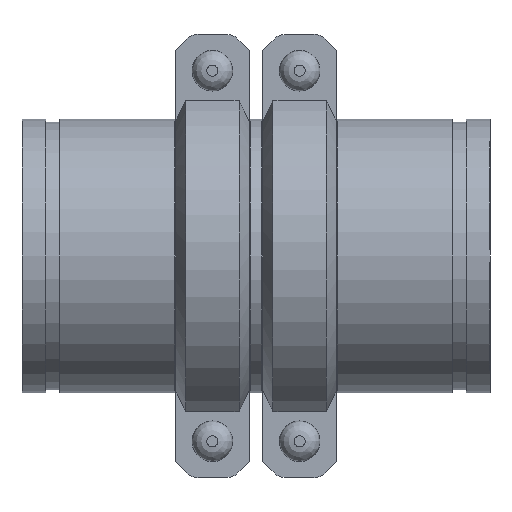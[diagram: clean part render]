
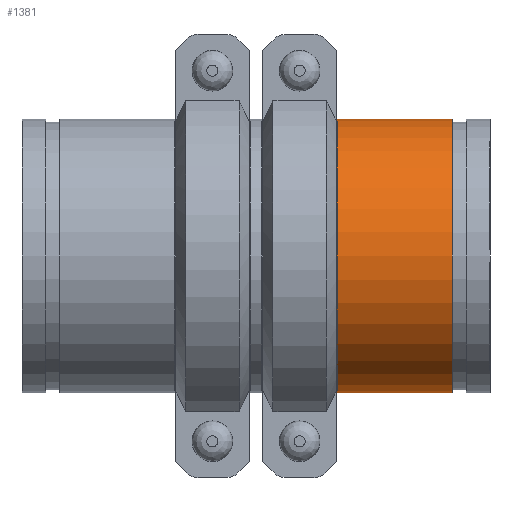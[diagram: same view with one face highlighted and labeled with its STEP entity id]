
A CAD part, front view. The second image highlights one B-rep face of the part: STEP entity #1381.
In plain terms, the highlighted cylindrical face has radius 109.537 mm (diameter 219.075 mm), a full revolution.
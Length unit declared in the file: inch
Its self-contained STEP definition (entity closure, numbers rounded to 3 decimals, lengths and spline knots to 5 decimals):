
#59=LINE('',#2197,#150);
#150=VECTOR('',#1772,4.3125);
#241=CYLINDRICAL_SURFACE('',#1566,4.3125);
#294=FACE_OUTER_BOUND('',#375,.T.);
#375=EDGE_LOOP('',(#908,#909,#910,#911,#912,#913));
#479=CIRCLE('',#1564,4.3125);
#480=CIRCLE('',#1565,4.3125);
#481=CIRCLE('',#1567,4.3125);
#482=CIRCLE('',#1568,4.3125);
#567=VERTEX_POINT('',#2188);
#568=VERTEX_POINT('',#2189);
#569=VERTEX_POINT('',#2193);
#570=VERTEX_POINT('',#2194);
#704=EDGE_CURVE('',#567,#568,#479,.T.);
#705=EDGE_CURVE('',#568,#567,#480,.T.);
#706=EDGE_CURVE('',#569,#570,#481,.T.);
#707=EDGE_CURVE('',#570,#569,#482,.T.);
#708=EDGE_CURVE('',#570,#568,#59,.T.);
#908=ORIENTED_EDGE('',*,*,#706,.F.);
#909=ORIENTED_EDGE('',*,*,#707,.F.);
#910=ORIENTED_EDGE('',*,*,#708,.T.);
#911=ORIENTED_EDGE('',*,*,#705,.T.);
#912=ORIENTED_EDGE('',*,*,#704,.T.);
#913=ORIENTED_EDGE('',*,*,#708,.F.);
#1381=ADVANCED_FACE('',(#294),#241,.T.);
#1564=AXIS2_PLACEMENT_3D('',#2190,#1762,#1763);
#1565=AXIS2_PLACEMENT_3D('',#2191,#1764,#1765);
#1566=AXIS2_PLACEMENT_3D('',#2192,#1766,#1767);
#1567=AXIS2_PLACEMENT_3D('',#2195,#1768,#1769);
#1568=AXIS2_PLACEMENT_3D('',#2196,#1770,#1771);
#1762=DIRECTION('center_axis',(-1.,0.,0.));
#1763=DIRECTION('ref_axis',(0.,0.,1.));
#1764=DIRECTION('center_axis',(-1.,0.,0.));
#1765=DIRECTION('ref_axis',(0.,0.,1.));
#1766=DIRECTION('center_axis',(-1.,0.,0.));
#1767=DIRECTION('ref_axis',(0.,1.,0.));
#1768=DIRECTION('center_axis',(-1.,0.,0.));
#1769=DIRECTION('ref_axis',(0.,0.,1.));
#1770=DIRECTION('center_axis',(-1.,0.,0.));
#1771=DIRECTION('ref_axis',(0.,0.,1.));
#1772=DIRECTION('',(1.,0.,0.));
#2188=CARTESIAN_POINT('',(1.812,4.3125,0.));
#2189=CARTESIAN_POINT('',(1.812,-4.3125,0.));
#2190=CARTESIAN_POINT('Origin',(1.812,0.,0.));
#2191=CARTESIAN_POINT('Origin',(1.812,0.,0.));
#2192=CARTESIAN_POINT('Origin',(0.,0.,
0.));
#2193=CARTESIAN_POINT('',(-1.812,4.3125,0.));
#2194=CARTESIAN_POINT('',(-1.812,-4.3125,0.));
#2195=CARTESIAN_POINT('Origin',(-1.812,0.,0.));
#2196=CARTESIAN_POINT('Origin',(-1.812,0.,0.));
#2197=CARTESIAN_POINT('',(0.,-4.3125,0.));
